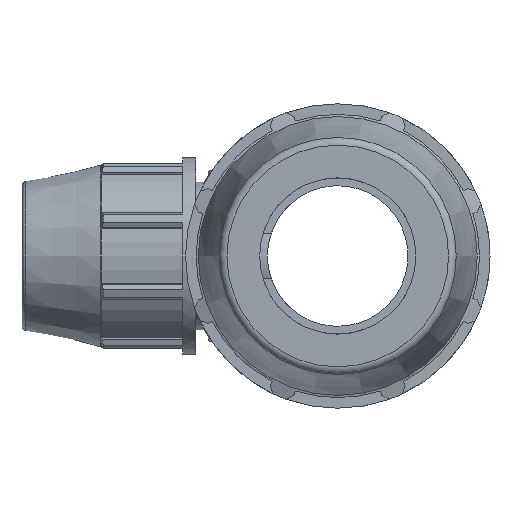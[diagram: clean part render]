
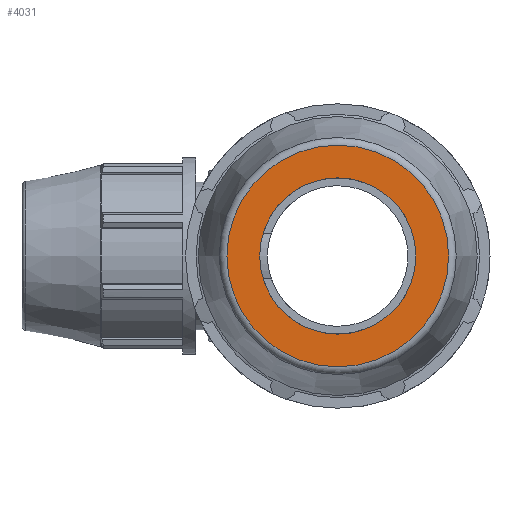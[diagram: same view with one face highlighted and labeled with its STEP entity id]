
A CAD part, left-side view. The second image highlights one B-rep face of the part: STEP entity #4031.
In plain terms, the highlighted planar face has unit normal (-1, 0, 0).
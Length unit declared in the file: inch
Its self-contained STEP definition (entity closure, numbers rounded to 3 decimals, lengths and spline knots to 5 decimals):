
#118=PLANE('',#4327);
#226=FACE_BOUND('',#508,.T.);
#301=FACE_OUTER_BOUND('',#507,.T.);
#507=EDGE_LOOP('',(#2910,#2911));
#508=EDGE_LOOP('',(#2912,#2913));
#1379=CIRCLE('',#4320,1.176);
#1380=CIRCLE('',#4321,1.176);
#1385=CIRCLE('',#4328,0.82874);
#1386=CIRCLE('',#4329,0.82874);
#1661=VERTEX_POINT('',#6269);
#1662=VERTEX_POINT('',#6270);
#1666=VERTEX_POINT('',#6283);
#1667=VERTEX_POINT('',#6284);
#2128=EDGE_CURVE('',#1661,#1662,#1379,.T.);
#2129=EDGE_CURVE('',#1662,#1661,#1380,.T.);
#2135=EDGE_CURVE('',#1666,#1667,#1385,.T.);
#2136=EDGE_CURVE('',#1667,#1666,#1386,.T.);
#2910=ORIENTED_EDGE('',*,*,#2128,.T.);
#2911=ORIENTED_EDGE('',*,*,#2129,.T.);
#2912=ORIENTED_EDGE('',*,*,#2135,.T.);
#2913=ORIENTED_EDGE('',*,*,#2136,.T.);
#4031=ADVANCED_FACE('',(#301,#226),#118,.F.);
#4320=AXIS2_PLACEMENT_3D('',#6271,#4973,#4974);
#4321=AXIS2_PLACEMENT_3D('',#6272,#4975,#4976);
#4327=AXIS2_PLACEMENT_3D('',#6282,#4988,#4989);
#4328=AXIS2_PLACEMENT_3D('',#6285,#4990,#4991);
#4329=AXIS2_PLACEMENT_3D('',#6286,#4992,#4993);
#4973=DIRECTION('center_axis',(-1.,0.,0.));
#4974=DIRECTION('ref_axis',(0.,-1.,0.));
#4975=DIRECTION('center_axis',(-1.,0.,0.));
#4976=DIRECTION('ref_axis',(0.,-1.,0.));
#4988=DIRECTION('center_axis',(1.,0.,0.));
#4989=DIRECTION('ref_axis',(0.,0.,-1.));
#4990=DIRECTION('center_axis',(1.,0.,0.));
#4991=DIRECTION('ref_axis',(0.,0.,-1.));
#4992=DIRECTION('center_axis',(1.,0.,0.));
#4993=DIRECTION('ref_axis',(0.,0.,-1.));
#6269=CARTESIAN_POINT('',(-3.975,1.176,0.));
#6270=CARTESIAN_POINT('',(-3.975,0.,1.176));
#6271=CARTESIAN_POINT('Origin',(-3.975,0.,0.));
#6272=CARTESIAN_POINT('Origin',(-3.975,0.,0.));
#6282=CARTESIAN_POINT('Origin',(-3.975,0.82874,0.));
#6283=CARTESIAN_POINT('',(-3.975,0.82874,0.));
#6284=CARTESIAN_POINT('',(-3.975,-0.82874,0.));
#6285=CARTESIAN_POINT('Origin',(-3.975,0.,0.));
#6286=CARTESIAN_POINT('Origin',(-3.975,0.,0.));
